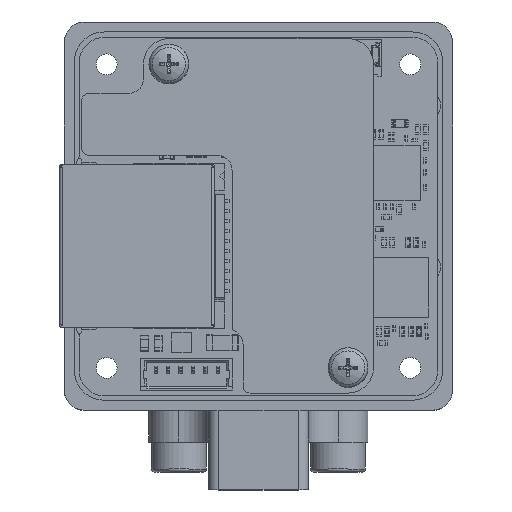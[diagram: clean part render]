
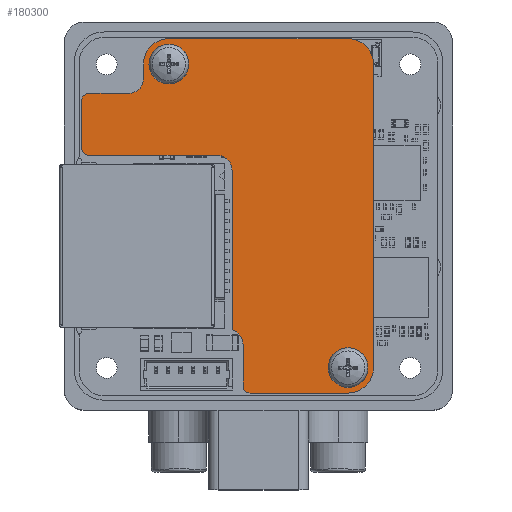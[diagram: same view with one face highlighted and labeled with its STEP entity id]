
A CAD part, top view. The second image highlights one B-rep face of the part: STEP entity #180300.
In plain terms, the highlighted planar face has unit normal (0, 0, 1).
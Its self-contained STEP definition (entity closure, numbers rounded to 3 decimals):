
#2348=FACE_BOUND('',#29057,.T.);
#2349=FACE_BOUND('',#29058,.T.);
#7590=CIRCLE('',#191624,2.);
#8125=CIRCLE('',#192614,0.7);
#8126=CIRCLE('',#192615,1.499);
#8127=CIRCLE('',#192616,1.501);
#8128=CIRCLE('',#192617,0.7);
#8129=CIRCLE('',#192618,2.55);
#8130=CIRCLE('',#192619,2.55);
#8131=CIRCLE('',#192620,2.55);
#8132=CIRCLE('',#192621,1.499);
#8133=CIRCLE('',#192622,0.7);
#8134=CIRCLE('',#192623,2.);
#17994=FACE_OUTER_BOUND('',#29056,.T.);
#29056=EDGE_LOOP('',(#123331,#123332,#123333,#123334,#123335,#123336,#123337,
#123338,#123339,#123340,#123341,#123342,#123343,#123344,#123345,#123346,
#123347,#123348));
#29057=EDGE_LOOP('',(#123349));
#29058=EDGE_LOOP('',(#123350));
#43714=LINE('',#278274,#60289);
#43715=LINE('',#278278,#60290);
#43716=LINE('',#278282,#60291);
#43717=LINE('',#278286,#60292);
#43718=LINE('',#278290,#60293);
#43719=LINE('',#278294,#60294);
#43720=LINE('',#278298,#60295);
#43721=LINE('',#278302,#60296);
#43722=LINE('',#278305,#60297);
#60289=VECTOR('',#220738,1.);
#60290=VECTOR('',#220741,1.);
#60291=VECTOR('',#220744,1.);
#60292=VECTOR('',#220747,1.);
#60293=VECTOR('',#220750,1.);
#60294=VECTOR('',#220753,1.);
#60295=VECTOR('',#220756,1.);
#60296=VECTOR('',#220759,1.);
#60297=VECTOR('',#220762,1.);
#74695=VERTEX_POINT('',#274960);
#75769=VERTEX_POINT('',#278270);
#75770=VERTEX_POINT('',#278271);
#75771=VERTEX_POINT('',#278273);
#75772=VERTEX_POINT('',#278275);
#75773=VERTEX_POINT('',#278277);
#75774=VERTEX_POINT('',#278279);
#75775=VERTEX_POINT('',#278281);
#75776=VERTEX_POINT('',#278283);
#75777=VERTEX_POINT('',#278285);
#75778=VERTEX_POINT('',#278287);
#75779=VERTEX_POINT('',#278289);
#75780=VERTEX_POINT('',#278291);
#75781=VERTEX_POINT('',#278293);
#75782=VERTEX_POINT('',#278295);
#75783=VERTEX_POINT('',#278297);
#75784=VERTEX_POINT('',#278299);
#75785=VERTEX_POINT('',#278301);
#75786=VERTEX_POINT('',#278303);
#75787=VERTEX_POINT('',#278306);
#90923=EDGE_CURVE('',#74695,#74695,#7590,.T.);
#92435=EDGE_CURVE('',#75769,#75770,#8125,.T.);
#92436=EDGE_CURVE('',#75771,#75769,#43714,.T.);
#92437=EDGE_CURVE('',#75772,#75771,#8126,.T.);
#92438=EDGE_CURVE('',#75773,#75772,#43715,.T.);
#92439=EDGE_CURVE('',#75774,#75773,#8127,.T.);
#92440=EDGE_CURVE('',#75775,#75774,#43716,.T.);
#92441=EDGE_CURVE('',#75776,#75775,#8128,.T.);
#92442=EDGE_CURVE('',#75777,#75776,#43717,.T.);
#92443=EDGE_CURVE('',#75778,#75777,#8129,.T.);
#92444=EDGE_CURVE('',#75779,#75778,#43718,.T.);
#92445=EDGE_CURVE('',#75780,#75779,#8130,.T.);
#92446=EDGE_CURVE('',#75781,#75780,#43719,.T.);
#92447=EDGE_CURVE('',#75782,#75781,#8131,.T.);
#92448=EDGE_CURVE('',#75783,#75782,#43720,.T.);
#92449=EDGE_CURVE('',#75784,#75783,#8132,.T.);
#92450=EDGE_CURVE('',#75785,#75784,#43721,.T.);
#92451=EDGE_CURVE('',#75786,#75785,#8133,.T.);
#92452=EDGE_CURVE('',#75770,#75786,#43722,.T.);
#92453=EDGE_CURVE('',#75787,#75787,#8134,.T.);
#123331=ORIENTED_EDGE('',*,*,#92435,.F.);
#123332=ORIENTED_EDGE('',*,*,#92436,.F.);
#123333=ORIENTED_EDGE('',*,*,#92437,.F.);
#123334=ORIENTED_EDGE('',*,*,#92438,.F.);
#123335=ORIENTED_EDGE('',*,*,#92439,.F.);
#123336=ORIENTED_EDGE('',*,*,#92440,.F.);
#123337=ORIENTED_EDGE('',*,*,#92441,.F.);
#123338=ORIENTED_EDGE('',*,*,#92442,.F.);
#123339=ORIENTED_EDGE('',*,*,#92443,.F.);
#123340=ORIENTED_EDGE('',*,*,#92444,.F.);
#123341=ORIENTED_EDGE('',*,*,#92445,.F.);
#123342=ORIENTED_EDGE('',*,*,#92446,.F.);
#123343=ORIENTED_EDGE('',*,*,#92447,.F.);
#123344=ORIENTED_EDGE('',*,*,#92448,.F.);
#123345=ORIENTED_EDGE('',*,*,#92449,.F.);
#123346=ORIENTED_EDGE('',*,*,#92450,.F.);
#123347=ORIENTED_EDGE('',*,*,#92451,.F.);
#123348=ORIENTED_EDGE('',*,*,#92452,.F.);
#123349=ORIENTED_EDGE('',*,*,#90923,.T.);
#123350=ORIENTED_EDGE('',*,*,#92453,.T.);
#164192=PLANE('',#192613);
#180300=ADVANCED_FACE('',(#17994,#2348,#2349),#164192,.F.);
#191624=AXIS2_PLACEMENT_3D('',#274961,#217847,#217848);
#192613=AXIS2_PLACEMENT_3D('',#278269,#220734,#220735);
#192614=AXIS2_PLACEMENT_3D('',#278272,#220736,#220737);
#192615=AXIS2_PLACEMENT_3D('',#278276,#220739,#220740);
#192616=AXIS2_PLACEMENT_3D('',#278280,#220742,#220743);
#192617=AXIS2_PLACEMENT_3D('',#278284,#220745,#220746);
#192618=AXIS2_PLACEMENT_3D('',#278288,#220748,#220749);
#192619=AXIS2_PLACEMENT_3D('',#278292,#220751,#220752);
#192620=AXIS2_PLACEMENT_3D('',#278296,#220754,#220755);
#192621=AXIS2_PLACEMENT_3D('',#278300,#220757,#220758);
#192622=AXIS2_PLACEMENT_3D('',#278304,#220760,#220761);
#192623=AXIS2_PLACEMENT_3D('',#278307,#220763,#220764);
#217847=DIRECTION('center_axis',(0.,0.,
-1.));
#217848=DIRECTION('ref_axis',(0.,1.,0.));
#220734=DIRECTION('center_axis',(0.,0.,
-1.));
#220735=DIRECTION('ref_axis',(-1.,0.,0.));
#220736=DIRECTION('center_axis',(0.,0.,
-1.));
#220737=DIRECTION('ref_axis',(0.,-1.,0.));
#220738=DIRECTION('',(-1.,0.,0.));
#220739=DIRECTION('center_axis',(0.,0.,
1.));
#220740=DIRECTION('ref_axis',(1.,-0.001,0.));
#220741=DIRECTION('',(0.,1.,0.));
#220742=DIRECTION('center_axis',(0.,0.,
1.));
#220743=DIRECTION('ref_axis',(1.,0.,0.));
#220744=DIRECTION('',(0.,1.,0.));
#220745=DIRECTION('center_axis',(0.,0.,
-1.));
#220746=DIRECTION('ref_axis',(0.,-1.,0.));
#220747=DIRECTION('',(-1.,0.,0.));
#220748=DIRECTION('center_axis',(0.,0.,
-1.));
#220749=DIRECTION('ref_axis',(1.,0.,0.));
#220750=DIRECTION('',(0.,-1.,0.));
#220751=DIRECTION('center_axis',(0.,0.,
-1.));
#220752=DIRECTION('ref_axis',(0.,1.,0.));
#220753=DIRECTION('',(1.,0.,0.));
#220754=DIRECTION('center_axis',(0.,0.,
-1.));
#220755=DIRECTION('ref_axis',(-1.,0.,0.));
#220756=DIRECTION('',(0.,1.,0.));
#220757=DIRECTION('center_axis',(0.,0.,
1.));
#220758=DIRECTION('ref_axis',(-0.001,-1.,
0.));
#220759=DIRECTION('',(1.,0.,0.));
#220760=DIRECTION('center_axis',(0.,0.,
-1.));
#220761=DIRECTION('ref_axis',(-1.,0.,
0.));
#220762=DIRECTION('',(0.,1.,0.));
#220763=DIRECTION('center_axis',(0.,0.,
-1.));
#220764=DIRECTION('ref_axis',(0.,1.,0.));
#274960=CARTESIAN_POINT('',(-9.,13.25,23.002));
#274961=CARTESIAN_POINT('Origin',(-9.,15.25,23.002));
#278269=CARTESIAN_POINT('Origin',(0.057,2.485,23.002));
#278270=CARTESIAN_POINT('',(-17.05,6.075,23.002));
#278271=CARTESIAN_POINT('',(-17.75,6.775,23.002));
#278272=CARTESIAN_POINT('Origin',(-17.05,6.775,23.002));
#278273=CARTESIAN_POINT('',(-4.15,6.075,23.002));
#278274=CARTESIAN_POINT('',(-4.15,6.075,23.002));
#278275=CARTESIAN_POINT('',(-2.65,4.575,23.002));
#278276=CARTESIAN_POINT('Origin',(-4.149,4.576,23.002));
#278277=CARTESIAN_POINT('',(-2.65,-11.454,23.002));
#278278=CARTESIAN_POINT('',(-2.65,-11.454,23.002));
#278279=CARTESIAN_POINT('',(-1.55,-12.9,23.002));
#278280=CARTESIAN_POINT('Origin',(-3.051,-12.9,23.002));
#278281=CARTESIAN_POINT('',(-1.55,-17.1,23.002));
#278282=CARTESIAN_POINT('',(-1.55,-17.1,23.002));
#278283=CARTESIAN_POINT('',(-0.85,-17.8,23.002));
#278284=CARTESIAN_POINT('Origin',(-0.85,-17.1,
23.002));
#278285=CARTESIAN_POINT('',(9.,-17.8,23.002));
#278286=CARTESIAN_POINT('',(9.,-17.8,23.002));
#278287=CARTESIAN_POINT('',(11.55,-15.25,23.002));
#278288=CARTESIAN_POINT('Origin',(9.,-15.25,23.002));
#278289=CARTESIAN_POINT('',(11.55,15.25,23.002));
#278290=CARTESIAN_POINT('',(11.55,15.25,23.002));
#278291=CARTESIAN_POINT('',(9.,17.8,23.002));
#278292=CARTESIAN_POINT('Origin',(9.,15.25,23.002));
#278293=CARTESIAN_POINT('',(-9.,17.8,23.002));
#278294=CARTESIAN_POINT('',(-9.,17.8,23.002));
#278295=CARTESIAN_POINT('',(-11.55,15.25,23.002));
#278296=CARTESIAN_POINT('Origin',(-9.,15.25,23.002));
#278297=CARTESIAN_POINT('',(-11.55,13.8,23.002));
#278298=CARTESIAN_POINT('',(-11.55,13.8,23.002));
#278299=CARTESIAN_POINT('',(-13.05,12.3,23.002));
#278300=CARTESIAN_POINT('Origin',(-13.049,13.799,23.002));
#278301=CARTESIAN_POINT('',(-17.05,12.3,23.002));
#278302=CARTESIAN_POINT('',(-17.05,12.3,23.002));
#278303=CARTESIAN_POINT('',(-17.75,11.6,23.002));
#278304=CARTESIAN_POINT('Origin',(-17.05,11.6,23.002));
#278305=CARTESIAN_POINT('',(-17.75,6.775,23.002));
#278306=CARTESIAN_POINT('',(9.,-17.25,23.002));
#278307=CARTESIAN_POINT('Origin',(9.,-15.25,23.002));
